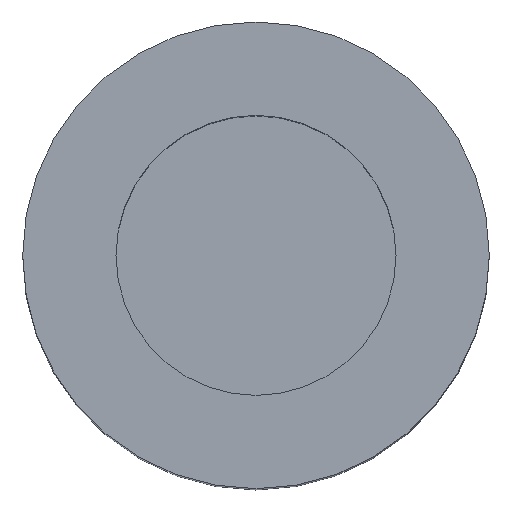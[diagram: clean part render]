
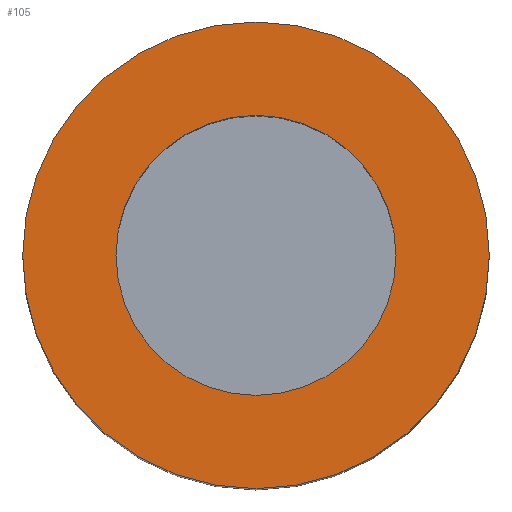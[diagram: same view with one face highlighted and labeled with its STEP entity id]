
A CAD part, top view. The second image highlights one B-rep face of the part: STEP entity #105.
In plain terms, the highlighted planar face has unit normal (0, 0, 1).
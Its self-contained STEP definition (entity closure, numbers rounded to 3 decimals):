
#21 = EDGE_CURVE('',#22,#22,#24,.T.);
#22 = VERTEX_POINT('',#23);
#23 = CARTESIAN_POINT('',(0.,5.,-5.));
#24 = SURFACE_CURVE('',#25,(#30,#42),.PCURVE_S1.);
#25 = CIRCLE('',#26,5.);
#26 = AXIS2_PLACEMENT_3D('',#27,#28,#29);
#27 = CARTESIAN_POINT('',(0.,0.,-5.));
#28 = DIRECTION('',(0.,-0.,1.));
#29 = DIRECTION('',(0.,1.,0.));
#30 = PCURVE('',#31,#36);
#31 = CYLINDRICAL_SURFACE('',#32,5.);
#32 = AXIS2_PLACEMENT_3D('',#33,#34,#35);
#33 = CARTESIAN_POINT('',(0.,0.,-13.));
#34 = DIRECTION('',(-0.,0.,-1.));
#35 = DIRECTION('',(0.,1.,0.));
#36 = DEFINITIONAL_REPRESENTATION('',(#37),#41);
#37 = LINE('',#38,#39);
#38 = CARTESIAN_POINT('',(-0.,-8.));
#39 = VECTOR('',#40,1.);
#40 = DIRECTION('',(-1.,0.));
#41 = ( GEOMETRIC_REPRESENTATION_CONTEXT(2) 
PARAMETRIC_REPRESENTATION_CONTEXT() REPRESENTATION_CONTEXT('2D SPACE',''
  ) );
#42 = PCURVE('',#43,#48);
#43 = PLANE('',#44);
#44 = AXIS2_PLACEMENT_3D('',#45,#46,#47);
#45 = CARTESIAN_POINT('',(0.,0.,-5.));
#46 = DIRECTION('',(0.,0.,1.));
#47 = DIRECTION('',(1.,0.,-0.));
#48 = DEFINITIONAL_REPRESENTATION('',(#49),#53);
#49 = CIRCLE('',#50,5.);
#50 = AXIS2_PLACEMENT_2D('',#51,#52);
#51 = CARTESIAN_POINT('',(0.,0.));
#52 = DIRECTION('',(0.,1.));
#53 = ( GEOMETRIC_REPRESENTATION_CONTEXT(2) 
PARAMETRIC_REPRESENTATION_CONTEXT() REPRESENTATION_CONTEXT('2D SPACE',''
  ) );
#105 = ADVANCED_FACE('',(#106,#109),#43,.T.);
#106 = FACE_BOUND('',#107,.T.);
#107 = EDGE_LOOP('',(#108));
#108 = ORIENTED_EDGE('',*,*,#21,.T.);
#109 = FACE_BOUND('',#110,.T.);
#110 = EDGE_LOOP('',(#111));
#111 = ORIENTED_EDGE('',*,*,#112,.T.);
#112 = EDGE_CURVE('',#113,#113,#115,.T.);
#113 = VERTEX_POINT('',#114);
#114 = CARTESIAN_POINT('',(0.,3.,-5.));
#115 = SURFACE_CURVE('',#116,(#121,#132),.PCURVE_S1.);
#116 = CIRCLE('',#117,3.);
#117 = AXIS2_PLACEMENT_3D('',#118,#119,#120);
#118 = CARTESIAN_POINT('',(0.,0.,-5.));
#119 = DIRECTION('',(-0.,0.,-1.));
#120 = DIRECTION('',(0.,1.,0.));
#121 = PCURVE('',#43,#122);
#122 = DEFINITIONAL_REPRESENTATION('',(#123),#131);
#123 = ( BOUNDED_CURVE() B_SPLINE_CURVE(2,(#124,#125,#126,#127,#128,#129
,#130),.UNSPECIFIED.,.T.,.F.) B_SPLINE_CURVE_WITH_KNOTS((1,2,2,2,2,1),(
    -2.094,0.,2.094,4.189,6.283,
8.378),.UNSPECIFIED.) CURVE() GEOMETRIC_REPRESENTATION_ITEM() 
RATIONAL_B_SPLINE_CURVE((1.,0.5,1.,0.5,1.,0.5,1.)) REPRESENTATION_ITEM(
  '') );
#124 = CARTESIAN_POINT('',(0.,3.));
#125 = CARTESIAN_POINT('',(5.196,3.));
#126 = CARTESIAN_POINT('',(2.598,-1.5));
#127 = CARTESIAN_POINT('',(0.,-6.));
#128 = CARTESIAN_POINT('',(-2.598,-1.5));
#129 = CARTESIAN_POINT('',(-5.196,3.));
#130 = CARTESIAN_POINT('',(0.,3.));
#131 = ( GEOMETRIC_REPRESENTATION_CONTEXT(2) 
PARAMETRIC_REPRESENTATION_CONTEXT() REPRESENTATION_CONTEXT('2D SPACE',''
  ) );
#132 = PCURVE('',#133,#138);
#133 = CYLINDRICAL_SURFACE('',#134,3.);
#134 = AXIS2_PLACEMENT_3D('',#135,#136,#137);
#135 = CARTESIAN_POINT('',(0.,0.,-14.));
#136 = DIRECTION('',(-0.,0.,-1.));
#137 = DIRECTION('',(0.,1.,0.));
#138 = DEFINITIONAL_REPRESENTATION('',(#139),#143);
#139 = LINE('',#140,#141);
#140 = CARTESIAN_POINT('',(-6.283,-9.));
#141 = VECTOR('',#142,1.);
#142 = DIRECTION('',(1.,-0.));
#143 = ( GEOMETRIC_REPRESENTATION_CONTEXT(2) 
PARAMETRIC_REPRESENTATION_CONTEXT() REPRESENTATION_CONTEXT('2D SPACE',''
  ) );
